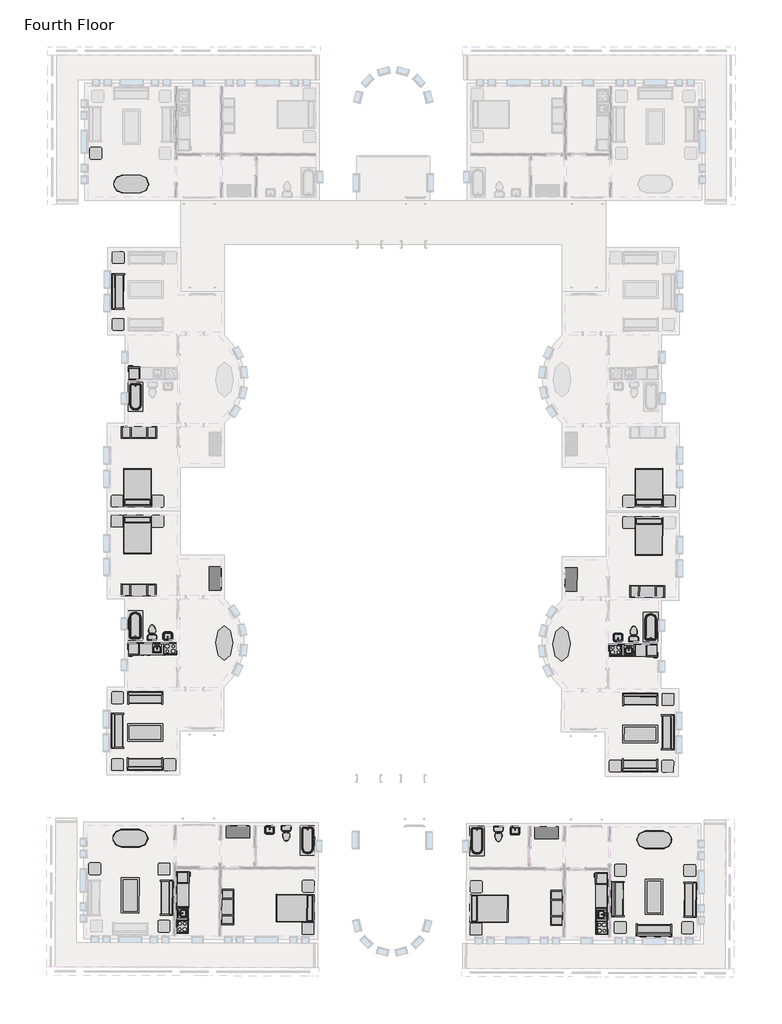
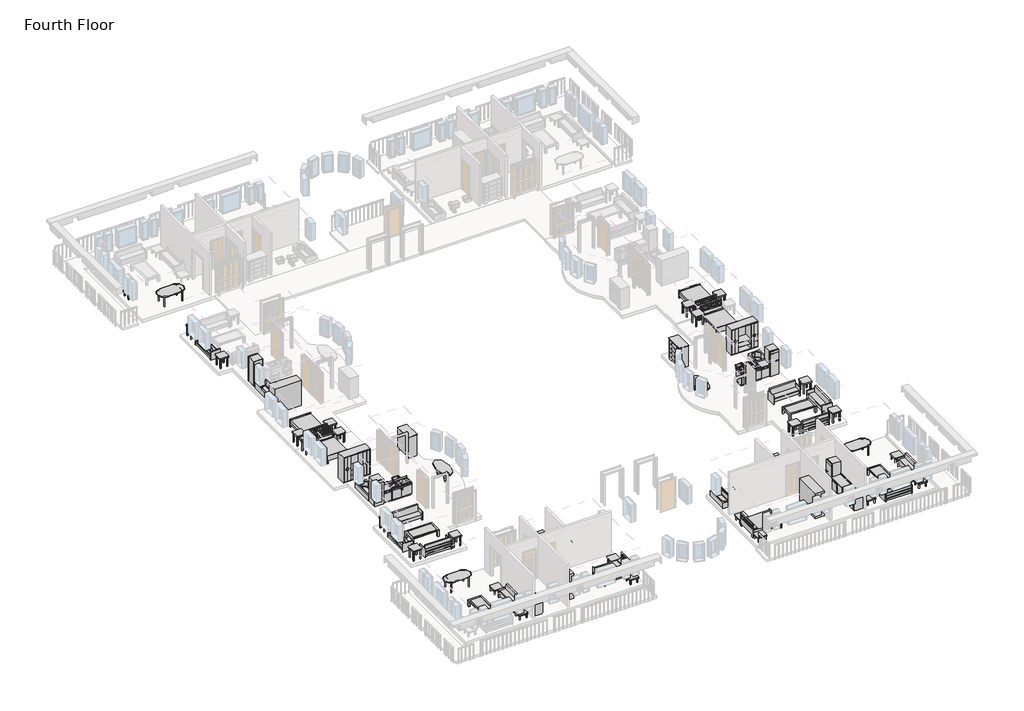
# One storey, part 7 of 8: 66 furniture elements, 17 flow terminals, 17 proxies.
"""IFC4 building model written with IfcOpenShell, lengths in millimetres."""

from ifc_helpers import new_model, si_unit, origin, place, context, project, spatial, transform, mapped, element, save
from components import m_cook_top_4_unit2_0615_x_500mm_249f3515, m_cook_top_4_unit2_0615_x_500mm_c91639ce, m_dishwasher_610_x_610_x_875mm_54ecfc4c, m_dishwasher_610_x_610_x_875mm_75336c20, m_kitchenette_medium_1372mm_e05c6bec, m_kitchenette_medium_1372mm_39f1532f, m_refrigerator_600_x_660mm_a466bf94, m_refrigerator_600_x_660mm_0a899b9c, m_sink_kitchen_island_450_x_450mm_f969cf2d, m_sink_kitchen_island_450_x_450mm_f6c2c534, m_sink_vanity_square_500_x_440mm_1e229b74, m_sink_vanity_square_500_x_440mm_f3cfe680, m_toilet_domestic_3d_m_toilet_domestic_3d_5cb52bd4, m_toilet_domestic_3d_m_toilet_domestic_3d_183bbd19, m_toilet_domestic_3d_m_toilet_domestic_3d_43425dfb, m_toilet_domestic_3d_m_toilet_domestic_3d_5530cc89, m_tub_rectangular_3d_m_tub_rectangular_3d_3a981ad5, m_tub_rectangular_3d_m_tub_rectangular_3d_c2020133, m_bed_shaker_1422_x_1981mm_double_096e7f55, m_bed_shaker_1422_x_1981mm_double_097b173b, m_counter_top_w_sink_hole_600mm_depth_1fb56bb9, m_counter_top_w_sink_hole_600mm_depth_08c4f679, m_counter_top_w_sink_hole_600mm_depth_60928b92, m_counter_top_w_sink_hole_600mm_depth_7e9aa94d, m_dresser_1220_x_1525_x_0610mm_18e1f140, m_dresser_1220_x_1525_x_0610mm_4e5de046, m_entertainment_center_1830_x_1830_x_0610mm_f77a9b93, m_entertainment_center_1830_x_1830_x_0610mm_4f6058a0, m_sofa_1830mm_58d08fc1, m_sofa_1830mm_3da2e71b, m_sofa1_1830mm_f9e8a66b, m_sofa1_1830mm_493d6964, m_table_coffee_0915_x_1830_x_0457mm_134cd960, m_table_coffee_0915_x_1830_x_0457mm_595c1ebd, m_table_dining_oval_0915_x_1830mm_a7cfbe21, m_table_dining_oval_0915_x_1830mm_ad8305c5, m_table_ellipse_1800_x_900mm_fd46d5a5, m_table_ellipse_1800_x_900mm_f7269293, m_table_end_cb6ea12e, m_table_end_aa2764bc, m_table_end_0610_x_0160mm_e0e5b28f, m_table_end_0610_x_0160mm_ccef8dc9

model = new_model("IFC4")

# Units and contexts
model_context = context("Model", 3, world=origin())
ifc_project = project(units=[si_unit("LENGTHUNIT", "METRE", prefix="MILLI")], contexts=[model_context])

# Site, building, storey
site = spatial("IfcSite", under=ifc_project)
building = spatial("IfcBuilding", under=site)
storey = spatial("IfcBuildingStorey", under=building, Name="Fourth Floor", Elevation=9144.0)

# Proxies
placement = place(None, origin())
m_cook_top_4_unit2_0615_x_500mm_shape = m_cook_top_4_unit2_0615_x_500mm_249f3515(model_context)
element("IfcBuildingElementProxy", 1, Name="M_Cook Top-4 Unit2 : 0615 x 500mm", ObjectType="M_Cook Top-4 Unit2 : 0615 x 500mm", at=placement, inside=storey, context=model_context, shape_type="MappedRepresentation", body=[
    mapped(m_cook_top_4_unit2_0615_x_500mm_shape, transform((-7404.4223325, -26881.3653639, 9144.0), x_axis=(0.9999905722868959, -0.004342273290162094, 0.0), y_axis=(0.004342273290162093, 0.9999905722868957, 0.0), z_axis=(0.0, 0.0, 0.9999999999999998))),
])
element("IfcBuildingElementProxy", 2, Name="M_Cook Top-4 Unit2 : 0615 x 500mm", ObjectType="M_Cook Top-4 Unit2 : 0615 x 500mm", at=placement, inside=storey, context=model_context, shape_type="MappedRepresentation", body=[
    mapped(m_cook_top_4_unit2_0615_x_500mm_shape, transform((-29921.672142, -41252.4695151, 9144.0), x_axis=(0.0028948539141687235, 0.9999958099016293, 0.0), y_axis=(-0.9999958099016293, 0.0028948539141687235, 0.0), z_axis=(0.0, 0.0, 1.0))),
])
m_cook_top_4_unit2_0615_x_500mm_2_shape = m_cook_top_4_unit2_0615_x_500mm_c91639ce(model_context)
element("IfcBuildingElementProxy", 3, Name="M_Cook Top-4 Unit2 : 0615 x 500mm", ObjectType="M_Cook Top-4 Unit2 : 0615 x 500mm", at=placement, inside=storey, context=model_context, shape_type="MappedRepresentation", body=[
    mapped(m_cook_top_4_unit2_0615_x_500mm_2_shape, transform((-8117.5635037, -41315.5894888, 9144.0), x_axis=(0.0028948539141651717, 0.9999958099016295, 0.0), y_axis=(-0.9999958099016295, 0.0028948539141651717, 0.0), z_axis=(0.0, 0.0, 1.0))),
])
element("IfcBuildingElementProxy", 4, Name="M_Cook Top-4 Unit2 : 0615 x 500mm", ObjectType="M_Cook Top-4 Unit2 : 0615 x 500mm", at=placement, inside=storey, context=model_context, shape_type="MappedRepresentation", body=[
    mapped(m_cook_top_4_unit2_0615_x_500mm_2_shape, transform((-30551.2317704, -26814.3584512, 9144.0), x_axis=(-0.9999989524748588, 0.0014474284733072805, 0.0), y_axis=(-0.0014474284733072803, -0.9999989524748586, 0.0), z_axis=(0.0, 0.0, 0.9999999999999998))),
])
m_dishwasher_610_x_610_x_875mm_shape = m_dishwasher_610_x_610_x_875mm_54ecfc4c(model_context)
element("IfcBuildingElementProxy", 5, Name="M_Dishwasher : 610 x 610 x 875mm", ObjectType="M_Dishwasher : 610 x 610 x 875mm", at=placement, inside=storey, context=model_context, shape_type="MappedRepresentation", body=[
    mapped(m_dishwasher_610_x_610_x_875mm_shape, transform((-6490.1062972, -27151.9876901, 9144.0), x_axis=(0.9999905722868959, -0.004342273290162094, 0.0), y_axis=(0.004342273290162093, 0.9999905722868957, 0.0), z_axis=(0.0, 0.0, 0.9999999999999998))),
])
element("IfcBuildingElementProxy", 6, Name="M_Dishwasher : 610 x 610 x 875mm", ObjectType="M_Dishwasher : 610 x 610 x 875mm", at=placement, inside=storey, context=model_context, shape_type="MappedRepresentation", body=[
    mapped(m_dishwasher_610_x_610_x_875mm_shape, transform((-29650.5063255, -39692.7654337, 9144.0), x_axis=(0.0028948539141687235, 0.9999958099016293, 0.0), y_axis=(-0.9999958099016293, 0.0028948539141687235, 0.0), z_axis=(0.0, 0.0, 1.0))),
])
m_dishwasher_610_x_610_x_875mm_2_shape = m_dishwasher_610_x_610_x_875mm_75336c20(model_context)
element("IfcBuildingElementProxy", 7, Name="M_Dishwasher : 610 x 610 x 875mm", ObjectType="M_Dishwasher : 610 x 610 x 875mm", at=placement, inside=storey, context=model_context, shape_type="MappedRepresentation", body=[
    mapped(m_dishwasher_610_x_610_x_875mm_2_shape, transform((-8379.6945822, -39754.3415843, 9144.0), x_axis=(0.0028948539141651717, 0.9999958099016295, 0.0), y_axis=(-0.9999958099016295, 0.0028948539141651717, 0.0), z_axis=(0.0, 0.0, 1.0))),
])
element("IfcBuildingElementProxy", 8, Name="M_Dishwasher : 610 x 610 x 875mm", ObjectType="M_Dishwasher : 610 x 610 x 875mm", at=placement, inside=storey, context=model_context, shape_type="MappedRepresentation", body=[
    mapped(m_dishwasher_610_x_610_x_875mm_2_shape, transform((-31467.0992991, -27079.6826412, 9144.0), x_axis=(-0.9999989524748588, 0.0014474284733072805, 0.0), y_axis=(-0.0014474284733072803, -0.9999989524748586, 0.0), z_axis=(0.0, 0.0, 0.9999999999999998))),
])
m_kitchenette_medium_1372mm_shape = m_kitchenette_medium_1372mm_e05c6bec(model_context)
element("IfcBuildingElementProxy", 9, Name="M_Kitchenette - Medium : 1372mm", ObjectType="M_Kitchenette - Medium : 1372mm", at=placement, inside=storey, context=model_context, shape_type="MappedRepresentation", body=[
    mapped(m_kitchenette_medium_1372mm_shape, transform((-30225.732172, -40927.3256482, 9144.0), x_axis=(0.0028948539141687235, 0.9999958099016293, 0.0), y_axis=(-0.9999958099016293, 0.0028948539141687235, 0.0), z_axis=(0.0, 0.0, 1.0))),
])
m_kitchenette_medium_1372mm_2_shape = m_kitchenette_medium_1372mm_39f1532f(model_context)
element("IfcBuildingElementProxy", 10, Name="M_Kitchenette - Medium : 1372mm", ObjectType="M_Kitchenette - Medium : 1372mm", at=placement, inside=storey, context=model_context, shape_type="MappedRepresentation", body=[
    mapped(m_kitchenette_medium_1372mm_2_shape, transform((-7811.6260897, -40992.2114828, 9144.0), x_axis=(0.0028948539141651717, 0.9999958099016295, 0.0), y_axis=(-0.9999958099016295, 0.0028948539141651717, 0.0), z_axis=(0.0, 0.0, 1.0))),
])
element("IfcBuildingElementProxy", 11, Name="M_Kitchenette - Medium1 : 1372mm 2", ObjectType="M_Kitchenette - Medium1 : 1372mm 2", at=placement, inside=storey, context=model_context, shape_type="MappedRepresentation", body=[
    mapped(m_kitchenette_medium_1372mm_shape, transform((-7078.8387011, -26577.7762748, 9144.0), x_axis=(0.9999905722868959, -0.004342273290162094, 0.0), y_axis=(0.004342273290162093, 0.9999905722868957, 0.0), z_axis=(0.0, 0.0, 0.9999999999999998))),
])
element("IfcBuildingElementProxy", 12, Name="M_Kitchenette - Medium1 : 1372mm 2", ObjectType="M_Kitchenette - Medium1 : 1372mm 2", at=placement, inside=storey, context=model_context, shape_type="MappedRepresentation", body=[
    mapped(m_kitchenette_medium_1372mm_2_shape, transform((-30875.0522602, -26508.8894242, 9144.0), x_axis=(-0.9999989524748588, 0.0014474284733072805, 0.0), y_axis=(-0.0014474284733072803, -0.9999989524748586, 0.0), z_axis=(0.0, 0.0, 0.9999999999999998))),
])
m_refrigerator_600_x_660mm_shape = m_refrigerator_600_x_660mm_a466bf94(model_context)
element("IfcBuildingElementProxy", 13, Name="M_Refrigerator : 600 x 660mm", ObjectType="M_Refrigerator : 600 x 660mm", at=placement, inside=storey, context=model_context, shape_type="MappedRepresentation", body=[
    mapped(m_refrigerator_600_x_660mm_shape, transform((-32487.3566416, -12528.1259936, 9144.0), x_axis=(-0.9999989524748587, 0.0014474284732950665, 0.0), y_axis=(-0.0014474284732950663, -0.9999989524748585, 0.0), z_axis=(0.0, 0.0, 0.9999999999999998))),
])
element("IfcBuildingElementProxy", 14, Name="M_Refrigerator : 600 x 660mm", ObjectType="M_Refrigerator : 600 x 660mm", at=placement, inside=storey, context=model_context, shape_type="MappedRepresentation", body=[
    mapped(m_refrigerator_600_x_660mm_shape, transform((-5447.6014915, -26881.0775022, 9144.0), x_axis=(0.9999905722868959, -0.004342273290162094, 0.0), y_axis=(0.004342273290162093, 0.9999905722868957, 0.0), z_axis=(0.0, 0.0, 0.9999999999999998))),
])
element("IfcBuildingElementProxy", 15, Name="M_Refrigerator : 600 x 660mm", ObjectType="M_Refrigerator : 600 x 660mm", at=placement, inside=storey, context=model_context, shape_type="MappedRepresentation", body=[
    mapped(m_refrigerator_600_x_660mm_shape, transform((-29922.9251807, -38650.6538432, 9144.0), x_axis=(0.0028948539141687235, 0.9999958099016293, 0.0), y_axis=(-0.9999958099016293, 0.0028948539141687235, 0.0), z_axis=(0.0, 0.0, 1.0))),
])
m_refrigerator_600_x_660mm_2_shape = m_refrigerator_600_x_660mm_0a899b9c(model_context)
element("IfcBuildingElementProxy", 16, Name="M_Refrigerator : 600 x 660mm", ObjectType="M_Refrigerator : 600 x 660mm", at=placement, inside=storey, context=model_context, shape_type="MappedRepresentation", body=[
    mapped(m_refrigerator_600_x_660mm_2_shape, transform((-8101.2467965, -38713.824679, 9144.0), x_axis=(0.0028948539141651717, 0.9999958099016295, 0.0), y_axis=(-0.9999958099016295, 0.0028948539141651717, 0.0), z_axis=(0.0, 0.0, 1.0))),
])
element("IfcBuildingElementProxy", 17, Name="M_Refrigerator : 600 x 660mm", ObjectType="M_Refrigerator : 600 x 660mm", at=placement, inside=storey, context=model_context, shape_type="MappedRepresentation", body=[
    mapped(m_refrigerator_600_x_660mm_2_shape, transform((-32508.0181478, -26802.7412209, 9144.0), x_axis=(-0.9999989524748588, 0.0014474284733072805, 0.0), y_axis=(-0.0014474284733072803, -0.9999989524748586, 0.0), z_axis=(0.0, 0.0, 0.9999999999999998))),
])

# Flow terminals
m_sink_kitchen_island_450_x_450mm_shape = m_sink_kitchen_island_450_x_450mm_f969cf2d(model_context)
element("IfcFlowTerminal", 18, ObjectType="M_Sink Kitchen-Island : 450 x 450mm", at=placement, inside=storey, context=model_context, shape_type="MappedRepresentation", body=[
    mapped(m_sink_kitchen_island_450_x_450mm_shape, transform((-6734.1280769, -26886.6214154, 9144.0), x_axis=(0.9999905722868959, -0.004342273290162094, 0.0), y_axis=(0.004342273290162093, 0.9999905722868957, 0.0), z_axis=(0.0, 0.0, 0.9999999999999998))),
])
element("IfcFlowTerminal", 19, ObjectType="M_Sink Kitchen-Island : 450 x 450mm", at=placement, inside=storey, context=model_context, shape_type="MappedRepresentation", body=[
    mapped(m_sink_kitchen_island_450_x_450mm_shape, transform((-29917.3862989, -40582.1683539, 9144.0), x_axis=(0.0028948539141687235, 0.9999958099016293, 0.0), y_axis=(-0.9999958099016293, 0.0028948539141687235, 0.0), z_axis=(0.0, 0.0, 1.0))),
])
m_sink_kitchen_island_450_x_450mm_2_shape = m_sink_kitchen_island_450_x_450mm_f6c2c534(model_context)
element("IfcFlowTerminal", 20, ObjectType="M_Sink Kitchen-Island : 450 x 450mm", at=placement, inside=storey, context=model_context, shape_type="MappedRepresentation", body=[
    mapped(m_sink_kitchen_island_450_x_450mm_2_shape, transform((-8117.9684433, -40645.2747484, 9144.0), x_axis=(0.0028948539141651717, 0.9999958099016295, 0.0), y_axis=(-0.9999958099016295, 0.0028948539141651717, 0.0), z_axis=(0.0, 0.0, 1.0))),
])
element("IfcFlowTerminal", 21, ObjectType="M_Sink Kitchen-Island : 450 x 450mm", at=placement, inside=storey, context=model_context, shape_type="MappedRepresentation", body=[
    mapped(m_sink_kitchen_island_450_x_450mm_2_shape, transform((-31221.5452225, -26815.733623, 9144.0), x_axis=(-0.9999989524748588, 0.0014474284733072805, 0.0), y_axis=(-0.0014474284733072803, -0.9999989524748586, 0.0), z_axis=(0.0, 0.0, 0.9999999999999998))),
])
m_sink_vanity_square_500_x_440mm_shape = m_sink_vanity_square_500_x_440mm_1e229b74(model_context)
element("IfcFlowTerminal", 22, ObjectType="M_Sink Vanity-Square : 500 x 440mm", at=placement, inside=storey, context=model_context, shape_type="MappedRepresentation", body=[
    mapped(m_sink_vanity_square_500_x_440mm_shape, transform((-7255.849628, -26269.4593372, 9144.0), x_axis=(-0.9999905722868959, 0.00434227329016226, 0.0), y_axis=(-0.0043422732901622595, -0.9999905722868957, 0.0), z_axis=(0.0, 0.0, 0.9999999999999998))),
])
element("IfcFlowTerminal", 23, ObjectType="M_Sink Vanity-Square : 500 x 440mm", at=placement, inside=storey, context=model_context, shape_type="MappedRepresentation", body=[
    mapped(m_sink_vanity_square_500_x_440mm_shape, transform((-25398.4470959, -36193.3769715, 9144.0), x_axis=(0.9999958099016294, -0.0028948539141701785, 0.0), y_axis=(0.0028948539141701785, 0.9999958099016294, 0.0), z_axis=(0.0, 0.0, 1.0))),
])
m_sink_vanity_square_500_x_440mm_2_shape = m_sink_vanity_square_500_x_440mm_f3cfe680(model_context)
element("IfcFlowTerminal", 24, ObjectType="M_Sink Vanity-Square : 500 x 440mm", at=placement, inside=storey, context=model_context, shape_type="MappedRepresentation", body=[
    mapped(m_sink_vanity_square_500_x_440mm_2_shape, transform((-12611.4221939, -36230.3936957, 9144.0), x_axis=(-0.9999958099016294, 0.002894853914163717, 0.0), y_axis=(-0.002894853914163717, -0.9999958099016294, 0.0), z_axis=(0.0, 0.0, 1.0))),
])
element("IfcFlowTerminal", 25, ObjectType="M_Sink Vanity-Square : 500 x 440mm", at=placement, inside=storey, context=model_context, shape_type="MappedRepresentation", body=[
    mapped(m_sink_vanity_square_500_x_440mm_2_shape, transform((-30696.2592425, -26201.6024913, 9144.0), x_axis=(0.9999989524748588, -0.001447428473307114, 0.0), y_axis=(0.0014474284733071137, 0.9999989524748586, 0.0), z_axis=(0.0, 0.0, 0.9999999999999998))),
])
m_toilet_domestic_3d_m_toilet_domestic_3d_shape = m_toilet_domestic_3d_m_toilet_domestic_3d_5cb52bd4(model_context)
m_toilet_domestic_3d_m_toilet_domestic_3d_2_shape = m_toilet_domestic_3d_m_toilet_domestic_3d_183bbd19(model_context)
element("IfcFlowTerminal", 26, ObjectType="M_Toilet-Domestic-3D : M_Toilet-Domestic-3D", at=placement, inside=storey, context=model_context, shape_type="MappedRepresentation", body=[
    mapped(m_toilet_domestic_3d_m_toilet_domestic_3d_shape, transform((-24522.1713775, -36508.8406097, 9144.0), x_axis=(0.9999958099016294, -0.00289485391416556, 0.0), y_axis=(0.00289485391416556, 0.9999958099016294, 0.0), z_axis=(0.0, 0.0, 1.0))),
    mapped(m_toilet_domestic_3d_m_toilet_domestic_3d_2_shape, transform((-24522.1713775, -36508.8406097, 9144.0), x_axis=(0.9999958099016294, -0.00289485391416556, 0.0), y_axis=(0.00289485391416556, 0.9999958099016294, 0.0), z_axis=(0.0, 0.0, 1.0))),
])
m_toilet_domestic_3d_m_toilet_domestic_3d_3_shape = m_toilet_domestic_3d_m_toilet_domestic_3d_43425dfb(model_context)
m_toilet_domestic_3d_m_toilet_domestic_3d_4_shape = m_toilet_domestic_3d_m_toilet_domestic_3d_5530cc89(model_context)
element("IfcFlowTerminal", 27, ObjectType="M_Toilet-Domestic-3D : M_Toilet-Domestic-3D", at=placement, inside=storey, context=model_context, shape_type="MappedRepresentation", body=[
    mapped(m_toilet_domestic_3d_m_toilet_domestic_3d_3_shape, transform((-13489.5096603, -36540.7786875, 9144.0), x_axis=(-0.9999958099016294, 0.002894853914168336, 0.0), y_axis=(-0.002894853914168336, -0.9999958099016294, 0.0), z_axis=(0.0, 0.0, 1.0))),
    mapped(m_toilet_domestic_3d_m_toilet_domestic_3d_4_shape, transform((-13489.5096603, -36540.7786875, 9144.0), x_axis=(-0.9999958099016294, 0.002894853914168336, 0.0), y_axis=(-0.002894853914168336, -0.9999958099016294, 0.0), z_axis=(0.0, 0.0, 1.0))),
])
element("IfcFlowTerminal", 28, ObjectType="M_Toilet-Domestic-3D1 : M_Toilet-Domestic-3D", at=placement, inside=storey, context=model_context, shape_type="MappedRepresentation", body=[
    mapped(m_toilet_domestic_3d_m_toilet_domestic_3d_shape, transform((-6457.2243201, -25950.2735511, 9144.0), x_axis=(-0.9999905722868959, 0.00434227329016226, 0.0), y_axis=(-0.0043422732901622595, -0.9999905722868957, 0.0), z_axis=(0.0, 0.0, 0.9999999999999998))),
    mapped(m_toilet_domestic_3d_m_toilet_domestic_3d_2_shape, transform((-6457.2243201, -25950.2735511, 9144.0), x_axis=(-0.9999905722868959, 0.00434227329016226, 0.0), y_axis=(-0.0043422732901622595, -0.9999905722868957, 0.0), z_axis=(0.0, 0.0, 0.9999999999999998))),
])
element("IfcFlowTerminal", 29, ObjectType="M_Toilet-Domestic-3D1 : M_Toilet-Domestic-3D", at=placement, inside=storey, context=model_context, shape_type="MappedRepresentation", body=[
    mapped(m_toilet_domestic_3d_m_toilet_domestic_3d_3_shape, transform((-31493.0231805, -25877.7982671, 9144.0), x_axis=(0.9999989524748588, -0.001447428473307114, 0.0), y_axis=(0.0014474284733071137, 0.9999989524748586, 0.0), z_axis=(0.0, 0.0, 0.9999999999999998))),
    mapped(m_toilet_domestic_3d_m_toilet_domestic_3d_4_shape, transform((-31493.0231805, -25877.7982671, 9144.0), x_axis=(0.9999989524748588, -0.001447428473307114, 0.0), y_axis=(0.0014474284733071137, 0.9999989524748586, 0.0), z_axis=(0.0, 0.0, 0.9999999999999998))),
])
m_tub_rectangular_3d_m_tub_rectangular_3d_shape = m_tub_rectangular_3d_m_tub_rectangular_3d_3a981ad5(model_context)
element("IfcFlowTerminal", 30, ObjectType="M_Tub-Rectangular-3D : M_Tub-Rectangular-3D", at=placement, inside=storey, context=model_context, shape_type="MappedRepresentation", body=[
    mapped(m_tub_rectangular_3d_m_tub_rectangular_3d_shape, transform((-22854.3573612, -37129.57823, 9144.0), x_axis=(-0.0028948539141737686, -0.9999958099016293, 0.0), y_axis=(0.9999958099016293, -0.0028948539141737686, 0.0), z_axis=(0.0, 0.0, 1.0))),
])
element("IfcFlowTerminal", 31, ObjectType="M_Tub-Rectangular-3D : M_Tub-Rectangular-3D", at=placement, inside=storey, context=model_context, shape_type="MappedRepresentation", body=[
    mapped(m_tub_rectangular_3d_m_tub_rectangular_3d_shape, transform((-32926.5841692, -25259.8157014, 9144.0), x_axis=(0.0014474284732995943, 0.9999989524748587, 0.0), y_axis=(-0.9999989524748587, 0.0014474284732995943, 0.0), z_axis=(0.0, 0.0, 1.0))),
])
m_tub_rectangular_3d_m_tub_rectangular_3d_2_shape = m_tub_rectangular_3d_m_tub_rectangular_3d_c2020133(model_context)
element("IfcFlowTerminal", 32, ObjectType="M_Tub-Rectangular-3D : M_Tub-Rectangular-3D", at=placement, inside=storey, context=model_context, shape_type="MappedRepresentation", body=[
    mapped(m_tub_rectangular_3d_m_tub_rectangular_3d_2_shape, transform((-32910.3874532, -14069.8333606, 9144.0), x_axis=(-0.0014474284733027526, -0.9999989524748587, 0.0), y_axis=(0.9999989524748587, -0.0014474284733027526, 0.0), z_axis=(0.0, 0.0, 1.0))),
])
element("IfcFlowTerminal", 33, ObjectType="M_Tub-Rectangular-3D : M_Tub-Rectangular-3D", at=placement, inside=storey, context=model_context, shape_type="MappedRepresentation", body=[
    mapped(m_tub_rectangular_3d_m_tub_rectangular_3d_2_shape, transform((-15160.8895978, -37151.8497886, 9144.0), x_axis=(-0.0028948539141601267, -0.9999958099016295, 0.0), y_axis=(0.9999958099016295, -0.0028948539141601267, 0.0), z_axis=(0.0, 0.0, 1.0))),
])
element("IfcFlowTerminal", 34, ObjectType="M_Tub-Rectangular-3D : M_Tub-Rectangular-3D", at=placement, inside=storey, context=model_context, shape_type="MappedRepresentation", body=[
    mapped(m_tub_rectangular_3d_m_tub_rectangular_3d_2_shape, transform((-5020.1094348, -25340.6012075, 9144.0), x_axis=(0.004342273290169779, 0.9999905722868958, 0.0), y_axis=(-0.9999905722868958, 0.004342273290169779, 0.0), z_axis=(0.0, 0.0, 1.0))),
])

# Furniture
m_bed_shaker_1422_x_1981mm_double_shape = m_bed_shaker_1422_x_1981mm_double_096e7f55(model_context)
element("IfcFurniture", 35, ObjectType="M_Bed-Shaker : 1422 x 1981mm - Double", at=placement, inside=storey, context=model_context, shape_type="MappedRepresentation", body=[
    mapped(m_bed_shaker_1422_x_1981mm_double_shape, transform((-32265.3963493, -19430.7695861, 9144.0), x_axis=(-0.9999989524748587, 0.0014474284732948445, 0.0), y_axis=(-0.0014474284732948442, -0.9999989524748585, 0.0), z_axis=(0.0, 0.0, 0.9999999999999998))),
])
element("IfcFurniture", 36, ObjectType="M_Bed-Shaker : 1422 x 1981mm - Double", at=placement, inside=storey, context=model_context, shape_type="MappedRepresentation", body=[
    mapped(m_bed_shaker_1422_x_1981mm_double_shape, transform((-5649.5787089, -19977.8202898, 9144.0), x_axis=(0.9999905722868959, -0.004342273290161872, 0.0), y_axis=(0.004342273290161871, 0.9999905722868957, 0.0), z_axis=(0.0, 0.0, 0.9999999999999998))),
])
element("IfcFurniture", 37, ObjectType="M_Bed-Shaker : 1422 x 1981mm - Double", at=placement, inside=storey, context=model_context, shape_type="MappedRepresentation", body=[
    mapped(m_bed_shaker_1422_x_1981mm_double_shape, transform((-23068.6004859, -40322.2184362, 9144.0), x_axis=(-0.002894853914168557, -0.9999958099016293, 0.0), y_axis=(0.9999958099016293, -0.002894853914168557, 0.0), z_axis=(0.0, 0.0, 1.0))),
])
m_bed_shaker_1422_x_1981mm_double_2_shape = m_bed_shaker_1422_x_1981mm_double_097b173b(model_context)
element("IfcFurniture", 38, ObjectType="M_Bed-Shaker : 1422 x 1981mm - Double", at=placement, inside=storey, context=model_context, shape_type="MappedRepresentation", body=[
    mapped(m_bed_shaker_1422_x_1981mm_double_2_shape, transform((-5648.7868913, -19430.7695861, 9144.0), x_axis=(0.9999989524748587, 0.0014474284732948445, 0.0), y_axis=(-0.0014474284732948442, 0.9999989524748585, 0.0), z_axis=(0.0, 0.0, 0.9999999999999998))),
])
element("IfcFurniture", 39, ObjectType="M_Bed-Shaker : 1422 x 1981mm - Double", at=placement, inside=storey, context=model_context, shape_type="MappedRepresentation", body=[
    mapped(m_bed_shaker_1422_x_1981mm_double_2_shape, transform((-14965.1344404, -40345.6768849, 9144.0), x_axis=(-0.0028948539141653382, -0.9999958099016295, 0.0), y_axis=(0.9999958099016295, -0.0028948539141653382, 0.0), z_axis=(0.0, 0.0, 1.0))),
])
element("IfcFurniture", 40, ObjectType="M_Bed-Shaker : 1422 x 1981mm - Double", at=placement, inside=storey, context=model_context, shape_type="MappedRepresentation", body=[
    mapped(m_bed_shaker_1422_x_1981mm_double_2_shape, transform((-32266.0766407, -19900.7690938, 9144.0), x_axis=(-0.9999989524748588, 0.0014474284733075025, 0.0), y_axis=(-0.0014474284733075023, -0.9999989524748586, 0.0), z_axis=(0.0, 0.0, 0.9999999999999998))),
])
m_counter_top_w_sink_hole_600mm_depth_shape = m_counter_top_w_sink_hole_600mm_depth_1fb56bb9(model_context)
element("IfcFurniture", 41, ObjectType="M_Counter Top w Sink Hole : 600mm Depth", at=placement, inside=storey, context=model_context, shape_type="MappedRepresentation", body=[
    mapped(m_counter_top_w_sink_hole_600mm_depth_shape, transform((-30224.1886359, -40394.1278824, 9144.0), x_axis=(0.0028948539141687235, 0.9999958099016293, 0.0), y_axis=(-0.9999958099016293, 0.0028948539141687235, 0.0), z_axis=(0.0, 0.0, 1.0))),
])
m_counter_top_w_sink_hole_600mm_depth_2_shape = m_counter_top_w_sink_hole_600mm_depth_08c4f679(model_context)
element("IfcFurniture", 42, ObjectType="M_Counter Top w Sink Hole : 600mm Depth", at=placement, inside=storey, context=model_context, shape_type="MappedRepresentation", body=[
    mapped(m_counter_top_w_sink_hole_600mm_depth_2_shape, transform((-6545.643728, -26580.0915749, 9144.0), x_axis=(0.9999905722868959, -0.004342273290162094, 0.0), y_axis=(0.004342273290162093, 0.9999905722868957, 0.0), z_axis=(0.0, 0.0, 0.9999999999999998))),
])
m_counter_top_w_sink_hole_600mm_depth_3_shape = m_counter_top_w_sink_hole_600mm_depth_60928b92(model_context)
element("IfcFurniture", 43, ObjectType="M_Counter Top w Sink Hole : 600mm Depth", at=placement, inside=storey, context=model_context, shape_type="MappedRepresentation", body=[
    mapped(m_counter_top_w_sink_hole_600mm_depth_3_shape, transform((-31408.2517016, -26508.1176554, 9144.0), x_axis=(-0.9999989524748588, 0.0014474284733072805, 0.0), y_axis=(-0.0014474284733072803, -0.9999989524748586, 0.0), z_axis=(0.0, 0.0, 0.9999999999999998))),
])
m_counter_top_w_sink_hole_600mm_depth_4_shape = m_counter_top_w_sink_hole_600mm_depth_7e9aa94d(model_context)
element("IfcFurniture", 44, ObjectType="M_Counter Top w Sink Hole : 600mm Depth", at=placement, inside=storey, context=model_context, shape_type="MappedRepresentation", body=[
    mapped(m_counter_top_w_sink_hole_600mm_depth_4_shape, transform((-7810.0825536, -40459.013717, 9144.0), x_axis=(0.0028948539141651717, 0.9999958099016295, 0.0), y_axis=(-0.9999958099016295, 0.0028948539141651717, 0.0), z_axis=(0.0, 0.0, 1.0))),
])
m_dresser_1220_x_1525_x_0610mm_shape = m_dresser_1220_x_1525_x_0610mm_18e1f140(model_context)
element("IfcFurniture", 45, ObjectType="M_Dresser : 1220 x 1525 x 0610mm", at=placement, inside=storey, context=model_context, shape_type="MappedRepresentation", body=[
    mapped(m_dresser_1220_x_1525_x_0610mm_shape, transform((-9350.5209907, -23482.9760924, 9144.0), x_axis=(-0.004342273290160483, -0.9999905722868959, 0.0), y_axis=(0.9999905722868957, -0.004342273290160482, 0.0), z_axis=(0.0, 0.0, 0.9999999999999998))),
])
element("IfcFurniture", 46, ObjectType="M_Dresser : 1220 x 1525 x 0610mm", at=placement, inside=storey, context=model_context, shape_type="MappedRepresentation", body=[
    mapped(m_dresser_1220_x_1525_x_0610mm_shape, transform((-27295.820683, -36698.2790207, 9144.0), x_axis=(-0.9999958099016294, 0.0028948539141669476, 0.0), y_axis=(-0.0028948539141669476, -0.9999958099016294, 0.0), z_axis=(0.0, 0.0, 1.0))),
])
m_dresser_1220_x_1525_x_0610mm_2_shape = m_dresser_1220_x_1525_x_0610mm_4e5de046(model_context)
element("IfcFurniture", 47, ObjectType="M_Dresser : 1220 x 1525 x 0610mm", at=placement, inside=storey, context=model_context, shape_type="MappedRepresentation", body=[
    mapped(m_dresser_1220_x_1525_x_0610mm_2_shape, transform((-10717.0036305, -36746.2724752, 9144.0), x_axis=(0.9999958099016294, -0.002894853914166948, 0.0), y_axis=(0.002894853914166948, 0.9999958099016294, 0.0), z_axis=(0.0, 0.0, 1.0))),
])
element("IfcFurniture", 48, ObjectType="M_Dresser : 1220 x 1525 x 0610mm", at=placement, inside=storey, context=model_context, shape_type="MappedRepresentation", body=[
    mapped(m_dresser_1220_x_1525_x_0610mm_2_shape, transform((-28585.490131, -23427.2934334, 9144.0), x_axis=(-0.0014474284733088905, -0.9999989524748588, 0.0), y_axis=(0.9999989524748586, -0.0014474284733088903, 0.0), z_axis=(0.0, 0.0, 0.9999999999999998))),
])
m_entertainment_center_1830_x_1830_x_0610mm_shape = m_entertainment_center_1830_x_1830_x_0610mm_f77a9b93(model_context)
element("IfcFurniture", 49, ObjectType="M_Entertainment center : 1830 x 1830 x 0610mm", at=placement, inside=storey, context=model_context, shape_type="MappedRepresentation", body=[
    mapped(m_entertainment_center_1830_x_1830_x_0610mm_shape, transform((-32173.151944, -15980.2994888, 9144.0), x_axis=(-0.9999989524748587, 0.0014474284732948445, 0.0), y_axis=(-0.0014474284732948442, -0.9999989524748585, 0.0), z_axis=(0.0, 0.0, 0.9999999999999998))),
])
element("IfcFurniture", 50, ObjectType="M_Entertainment center : 1830 x 1830 x 0610mm", at=placement, inside=storey, context=model_context, shape_type="MappedRepresentation", body=[
    mapped(m_entertainment_center_1830_x_1830_x_0610mm_shape, transform((-5751.8113346, -23428.0088952, 9144.0), x_axis=(0.9999905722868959, -0.004342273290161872, 0.0), y_axis=(0.004342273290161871, 0.9999905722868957, 0.0), z_axis=(0.0, 0.0, 0.9999999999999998))),
])
element("IfcFurniture", 51, ObjectType="M_Entertainment center : 1830 x 1830 x 0610mm", at=placement, inside=storey, context=model_context, shape_type="MappedRepresentation", body=[
    mapped(m_entertainment_center_1830_x_1830_x_0610mm_shape, transform((-27155.4724705, -40237.537184, 9144.0), x_axis=(-0.0028948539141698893, -0.9999958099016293, 0.0), y_axis=(0.9999958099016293, -0.0028948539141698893, 0.0), z_axis=(0.0, 0.0, 1.0))),
])
m_entertainment_center_1830_x_1830_x_0610mm_2_shape = m_entertainment_center_1830_x_1830_x_0610mm_4f6058a0(model_context)
element("IfcFurniture", 52, ObjectType="M_Entertainment center : 1830 x 1830 x 0610mm", at=placement, inside=storey, context=model_context, shape_type="MappedRepresentation", body=[
    mapped(m_entertainment_center_1830_x_1830_x_0610mm_2_shape, transform((-10877.8406756, -40284.6587476, 9144.0), x_axis=(-0.002894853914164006, -0.9999958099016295, 0.0), y_axis=(0.9999958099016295, -0.002894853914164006, 0.0), z_axis=(0.0, 0.0, 1.0))),
])
element("IfcFurniture", 53, ObjectType="M_Entertainment center : 1830 x 1830 x 0610mm", at=placement, inside=storey, context=model_context, shape_type="MappedRepresentation", body=[
    mapped(m_entertainment_center_1830_x_1830_x_0610mm_2_shape, transform((-32183.8212288, -23351.4917673, 9144.0), x_axis=(-0.9999989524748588, 0.0014474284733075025, 0.0), y_axis=(-0.0014474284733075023, -0.9999989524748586, 0.0), z_axis=(0.0, 0.0, 0.9999999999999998))),
])
m_sofa_1830mm_shape = m_sofa_1830mm_58d08fc1(model_context)
element("IfcFurniture", 54, ObjectType="M_Sofa : 1830mm", at=placement, inside=storey, context=model_context, shape_type="MappedRepresentation", body=[
    mapped(m_sofa_1830mm_shape, transform((-30883.7111212, -39691.3716975, 9144.0), x_axis=(-0.002894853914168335, -0.9999958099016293, 0.0), y_axis=(0.9999958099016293, -0.002894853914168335, 0.0), z_axis=(0.0, 0.0, 1.0))),
])
m_sofa_1830mm_2_shape = m_sofa_1830mm_3da2e71b(model_context)
element("IfcFurniture", 55, ObjectType="M_Sofa : 1830mm", at=placement, inside=storey, context=model_context, shape_type="MappedRepresentation", body=[
    mapped(m_sofa_1830mm_2_shape, transform((-5476.2542745, -41309.1457454, 9144.0), x_axis=(0.9999958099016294, -0.002894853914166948, 0.0), y_axis=(0.002894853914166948, 0.9999958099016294, 0.0), z_axis=(0.0, 0.0, 1.0))),
])
element("IfcFurniture", 56, ObjectType="M_Sofa : 1830mm", at=placement, inside=storey, context=model_context, shape_type="MappedRepresentation", body=[
    mapped(m_sofa_1830mm_2_shape, transform((-3675.7206344, -39931.6563496, 9144.0), x_axis=(0.002894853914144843, 0.9999958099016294, 0.0), y_axis=(-0.9999958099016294, 0.002894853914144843, 0.0), z_axis=(0.0, 0.0, 1.0))),
])
element("IfcFurniture", 57, ObjectType="M_Sofa : 1830mm", at=placement, inside=storey, context=model_context, shape_type="MappedRepresentation", body=[
    mapped(m_sofa_1830mm_2_shape, transform((-7146.5023862, -39760.087737, 9144.0), x_axis=(-0.0028948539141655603, -0.9999958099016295, 0.0), y_axis=(0.9999958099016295, -0.0028948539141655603, 0.0), z_axis=(0.0, 0.0, 1.0))),
])
m_sofa1_1830mm_shape = m_sofa1_1830mm_f9e8a66b(model_context)
element("IfcFurniture", 58, ObjectType="M_Sofa1 : 1830mm", at=placement, inside=storey, context=model_context, shape_type="MappedRepresentation", body=[
    mapped(m_sofa1_1830mm_shape, transform((-33110.3167447, -8323.9054813, 9144.0), x_axis=(0.0014474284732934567, 0.9999989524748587, 0.0), y_axis=(-0.9999989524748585, 0.0014474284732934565, 0.0), z_axis=(0.0, 0.0, 0.9999999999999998))),
])
element("IfcFurniture", 59, ObjectType="M_Sofa1 : 1830mm", at=placement, inside=storey, context=model_context, shape_type="MappedRepresentation", body=[
    mapped(m_sofa1_1830mm_shape, transform((-4836.8146029, -31087.0837768, 9144.0), x_axis=(-0.004342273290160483, -0.9999905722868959, 0.0), y_axis=(0.9999905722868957, -0.004342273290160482, 0.0), z_axis=(0.0, 0.0, 0.9999999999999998))),
])
element("IfcFurniture", 60, ObjectType="M_Sofa1 : 1830mm", at=placement, inside=storey, context=model_context, shape_type="MappedRepresentation", body=[
    mapped(m_sofa1_1830mm_shape, transform((-6189.5797831, -29598.4702567, 9144.0), x_axis=(0.9999905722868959, -0.004342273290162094, 0.0), y_axis=(0.004342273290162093, 0.9999905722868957, 0.0), z_axis=(0.0, 0.0, 0.9999999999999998))),
])
element("IfcFurniture", 61, ObjectType="M_Sofa1 : 1830mm", at=placement, inside=storey, context=model_context, shape_type="MappedRepresentation", body=[
    mapped(m_sofa1_1830mm_shape, transform((-6062.461585, -32735.9936216, 9144.0), x_axis=(-0.9999905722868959, 0.00434227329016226, 0.0), y_axis=(-0.0043422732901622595, -0.9999905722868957, 0.0), z_axis=(0.0, 0.0, 0.9999999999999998))),
])
m_sofa1_1830mm_2_shape = m_sofa1_1830mm_493d6964(model_context)
element("IfcFurniture", 62, ObjectType="M_Sofa1 : 1830mm", at=placement, inside=storey, context=model_context, shape_type="MappedRepresentation", body=[
    mapped(m_sofa1_1830mm_2_shape, transform((-33143.1462448, -31005.1407385, 9144.0), x_axis=(-0.0014474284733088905, -0.9999989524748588, 0.0), y_axis=(0.9999989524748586, -0.0014474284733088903, 0.0), z_axis=(0.0, 0.0, 0.9999999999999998))),
])
element("IfcFurniture", 63, ObjectType="M_Sofa1 : 1830mm", at=placement, inside=storey, context=model_context, shape_type="MappedRepresentation", body=[
    mapped(m_sofa1_1830mm_2_shape, transform((-31781.7851362, -29524.3842504, 9144.0), x_axis=(-0.9999989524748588, 0.0014474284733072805, 0.0), y_axis=(-0.0014474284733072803, -0.9999989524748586, 0.0), z_axis=(0.0, 0.0, 0.9999999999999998))),
])
element("IfcFurniture", 64, ObjectType="M_Sofa1 : 1830mm", at=placement, inside=storey, context=model_context, shape_type="MappedRepresentation", body=[
    mapped(m_sofa1_1830mm_2_shape, transform((-31927.0664712, -32661.1190552, 9144.0), x_axis=(0.9999989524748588, -0.001447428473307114, 0.0), y_axis=(0.0014474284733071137, 0.9999989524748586, 0.0), z_axis=(0.0, 0.0, 0.9999999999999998))),
])
m_table_coffee_0915_x_1830_x_0457mm_shape = m_table_coffee_0915_x_1830_x_0457mm_134cd960(model_context)
element("IfcFurniture", 65, ObjectType="M_Table-Coffee : 0915 x 1830 x 0457mm", at=placement, inside=storey, context=model_context, shape_type="MappedRepresentation", body=[
    mapped(m_table_coffee_0915_x_1830_x_0457mm_shape, transform((-6145.0704326, -31347.7369995, 9144.0), x_axis=(0.9999905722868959, -0.004342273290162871, 0.0), y_axis=(0.00434227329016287, 0.9999905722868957, 0.0), z_axis=(0.0, 0.0, 0.9999999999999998))),
])
element("IfcFurniture", 66, ObjectType="M_Table-Coffee : 0915 x 1830 x 0457mm", at=placement, inside=storey, context=model_context, shape_type="MappedRepresentation", body=[
    mapped(m_table_coffee_0915_x_1830_x_0457mm_shape, transform((-32723.8138427, -39618.1492872, 9144.0), x_axis=(-0.0028948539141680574, -0.9999958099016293, 0.0), y_axis=(0.9999958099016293, -0.0028948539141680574, 0.0), z_axis=(0.0, 0.0, 1.0))),
])
m_table_coffee_0915_x_1830_x_0457mm_2_shape = m_table_coffee_0915_x_1830_x_0457mm_595c1ebd(model_context)
element("IfcFurniture", 67, ObjectType="M_Table-Coffee : 0915 x 1830 x 0457mm", at=placement, inside=storey, context=model_context, shape_type="MappedRepresentation", body=[
    mapped(m_table_coffee_0915_x_1830_x_0457mm_2_shape, transform((-5306.0065709, -39697.5201665, 9144.0), x_axis=(-0.002894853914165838, -0.9999958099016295, 0.0), y_axis=(0.9999958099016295, -0.002894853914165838, 0.0), z_axis=(0.0, 0.0, 1.0))),
])
element("IfcFurniture", 68, ObjectType="M_Table-Coffee : 0915 x 1830 x 0457mm", at=placement, inside=storey, context=model_context, shape_type="MappedRepresentation", body=[
    mapped(m_table_coffee_0915_x_1830_x_0457mm_2_shape, transform((-31836.4214416, -31273.3639798, 9144.0), x_axis=(-0.9999989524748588, 0.0014474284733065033, 0.0), y_axis=(-0.001447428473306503, -0.9999989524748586, 0.0), z_axis=(0.0, 0.0, 0.9999999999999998))),
])
m_table_dining_oval_0915_x_1830mm_shape = m_table_dining_oval_0915_x_1830mm_a7cfbe21(model_context)
element("IfcFurniture", 69, ObjectType="M_Table-Dining Oval : 0915 x 1830mm", at=placement, inside=storey, context=model_context, shape_type="MappedRepresentation", body=[
    mapped(m_table_dining_oval_0915_x_1830mm_shape, transform((-33022.9144028, -37024.136693, 9144.0), x_axis=(-0.9999958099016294, 0.0028948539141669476, 0.0), y_axis=(-0.0028948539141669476, -0.9999958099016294, 0.0), z_axis=(0.0, 0.0, 1.0))),
])
m_table_dining_oval_0915_x_1830mm_2_shape = m_table_dining_oval_0915_x_1830mm_ad8305c5(model_context)
element("IfcFurniture", 70, ObjectType="M_Table-Dining Oval : 0915 x 1830mm", at=placement, inside=storey, context=model_context, shape_type="MappedRepresentation", body=[
    mapped(m_table_dining_oval_0915_x_1830mm_2_shape, transform((-32972.6612925, -2305.2828007, 9144.0), x_axis=(-1.0, 0.0, 0.0), y_axis=(0.0, -1.0, 0.0), z_axis=(0.0, 0.0, 1.0))),
])
element("IfcFurniture", 71, ObjectType="M_Table-Dining Oval : 0915 x 1830mm", at=placement, inside=storey, context=model_context, shape_type="MappedRepresentation", body=[
    mapped(m_table_dining_oval_0915_x_1830mm_2_shape, transform((-4991.8925118, -37105.2827464, 9144.0), x_axis=(0.9999958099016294, -0.002894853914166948, 0.0), y_axis=(0.002894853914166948, 0.9999958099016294, 0.0), z_axis=(0.0, 0.0, 1.0))),
])
m_table_ellipse_1800_x_900mm_shape = m_table_ellipse_1800_x_900mm_fd46d5a5(model_context)
element("IfcFurniture", 72, ObjectType="M_Table-Ellipse : 1800 x 900mm", at=placement, inside=storey, context=model_context, shape_type="MappedRepresentation", body=[
    mapped(m_table_ellipse_1800_x_900mm_shape, transform((-10207.0715038, -26564.192505, 9144.0), x_axis=(-0.004342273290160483, -0.9999905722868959, 0.0), y_axis=(0.9999905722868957, -0.004342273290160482, 0.0), z_axis=(0.0, 0.0, 0.9999999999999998))),
])
m_table_ellipse_1800_x_900mm_2_shape = m_table_ellipse_1800_x_900mm_f7269293(model_context)
element("IfcFurniture", 73, ObjectType="M_Table-Ellipse : 1800 x 900mm", at=placement, inside=storey, context=model_context, shape_type="MappedRepresentation", body=[
    mapped(m_table_ellipse_1800_x_900mm_2_shape, transform((-27746.793242, -26513.4173601, 9144.0), x_axis=(-0.0014474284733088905, -0.9999989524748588, 0.0), y_axis=(0.9999989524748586, -0.0014474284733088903, 0.0), z_axis=(0.0, 0.0, 0.9999999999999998))),
])
m_table_end_shape = m_table_end_cb6ea12e(model_context)
element("IfcFurniture", 74, ObjectType="M_Table-End : 0610 x 0160mm altered height", at=placement, inside=storey, context=model_context, shape_type="MappedRepresentation", body=[
    mapped(m_table_end_shape, transform((-30569.1071738, -41085.2587623, 9144.0), x_axis=(-0.9999958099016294, 0.0028948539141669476, 0.0), y_axis=(-0.0028948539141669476, -0.9999958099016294, 0.0), z_axis=(0.0, 0.0, 1.0))),
])
element("IfcFurniture", 75, ObjectType="M_Table-End : 0610 x 0160mm altered height", at=placement, inside=storey, context=model_context, shape_type="MappedRepresentation", body=[
    mapped(m_table_end_shape, transform((-34160.490031, -38103.349739, 9144.0), x_axis=(-0.9999958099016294, 0.0028948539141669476, 0.0), y_axis=(-0.0028948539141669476, -0.9999958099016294, 0.0), z_axis=(0.0, 0.0, 1.0))),
])
element("IfcFurniture", 76, ObjectType="M_Table-End : 0610 x 0160mm altered height", at=placement, inside=storey, context=model_context, shape_type="MappedRepresentation", body=[
    mapped(m_table_end_shape, transform((-30560.5051154, -38113.7712131, 9144.0), x_axis=(-0.9999958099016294, 0.0028948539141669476, 0.0), y_axis=(-0.0028948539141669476, -0.9999958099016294, 0.0), z_axis=(0.0, 0.0, 1.0))),
])
element("IfcFurniture", 77, ObjectType="M_Table-End : 0610 x 0160mm altered height", at=placement, inside=storey, context=model_context, shape_type="MappedRepresentation", body=[
    mapped(m_table_end_shape, transform((-23071.0593728, -39006.955807, 9144.0), x_axis=(-0.9999958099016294, 0.0028948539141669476, 0.0), y_axis=(-0.0028948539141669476, -0.9999958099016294, 0.0), z_axis=(0.0, 0.0, 1.0))),
])
element("IfcFurniture", 78, ObjectType="M_Table-End : 0610 x 0160mm altered height", at=placement, inside=storey, context=model_context, shape_type="MappedRepresentation", body=[
    mapped(m_table_end_shape, transform((-23077.4280514, -41206.9465888, 9144.0), x_axis=(-0.9999958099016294, 0.0028948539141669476, 0.0), y_axis=(-0.0028948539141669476, -0.9999958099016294, 0.0), z_axis=(0.0, 0.0, 1.0))),
])
m_table_end_2_shape = m_table_end_aa2764bc(model_context)
element("IfcFurniture", 79, ObjectType="M_Table-End : 0610 x 0160mm altered height", at=placement, inside=storey, context=model_context, shape_type="MappedRepresentation", body=[
    mapped(m_table_end_2_shape, transform((-34107.10799, -1222.7811614, 9144.0), x_axis=(-1.0, 0.0, 0.0), y_axis=(0.0, -1.0, 0.0), z_axis=(0.0, 0.0, 1.0))),
])
element("IfcFurniture", 80, ObjectType="M_Table-End : 0610 x 0160mm altered height", at=placement, inside=storey, context=model_context, shape_type="MappedRepresentation", body=[
    mapped(m_table_end_2_shape, transform((-7469.1712258, -41152.1299825, 9144.0), x_axis=(0.9999958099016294, -0.002894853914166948, 0.0), y_axis=(0.002894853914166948, 0.9999958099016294, 0.0), z_axis=(0.0, 0.0, 1.0))),
])
element("IfcFurniture", 81, ObjectType="M_Table-End : 0610 x 0160mm altered height", at=placement, inside=storey, context=model_context, shape_type="MappedRepresentation", body=[
    mapped(m_table_end_2_shape, transform((-3969.1858911, -41162.2619711, 9144.0), x_axis=(0.9999958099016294, -0.002894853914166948, 0.0), y_axis=(0.002894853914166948, 0.9999958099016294, 0.0), z_axis=(0.0, 0.0, 1.0))),
])
element("IfcFurniture", 82, ObjectType="M_Table-End : 0610 x 0160mm altered height", at=placement, inside=storey, context=model_context, shape_type="MappedRepresentation", body=[
    mapped(m_table_end_2_shape, transform((-3860.5842517, -38191.0639074, 9144.0), x_axis=(0.9999958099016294, -0.002894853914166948, 0.0), y_axis=(0.002894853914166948, 0.9999958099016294, 0.0), z_axis=(0.0, 0.0, 1.0))),
])
element("IfcFurniture", 83, ObjectType="M_Table-End : 0610 x 0160mm altered height", at=placement, inside=storey, context=model_context, shape_type="MappedRepresentation", body=[
    mapped(m_table_end_2_shape, transform((-7460.5691674, -38180.6424333, 9144.0), x_axis=(0.9999958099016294, -0.002894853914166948, 0.0), y_axis=(0.002894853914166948, 0.9999958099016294, 0.0), z_axis=(0.0, 0.0, 1.0))),
])
element("IfcFurniture", 84, ObjectType="M_Table-End : 0610 x 0160mm altered height", at=placement, inside=storey, context=model_context, shape_type="MappedRepresentation", body=[
    mapped(m_table_end_2_shape, transform((-14955.0606403, -39030.4505361, 9144.0), x_axis=(0.9999958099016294, -0.002894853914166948, 0.0), y_axis=(0.002894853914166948, 0.9999958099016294, 0.0), z_axis=(0.0, 0.0, 1.0))),
])
element("IfcFurniture", 85, ObjectType="M_Table-End : 0610 x 0160mm altered height", at=placement, inside=storey, context=model_context, shape_type="MappedRepresentation", body=[
    mapped(m_table_end_2_shape, transform((-14961.4293189, -41230.4413179, 9144.0), x_axis=(0.9999958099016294, -0.002894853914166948, 0.0), y_axis=(0.002894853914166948, 0.9999958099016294, 0.0), z_axis=(0.0, 0.0, 1.0))),
])
m_table_end_0610_x_0160mm_shape = m_table_end_0610_x_0160mm_e0e5b28f(model_context)
element("IfcFurniture", 86, ObjectType="M_Table-End : 0610 x 0160mm", at=placement, inside=storey, context=model_context, shape_type="MappedRepresentation", body=[
    mapped(m_table_end_0610_x_0160mm_shape, transform((-33160.1808503, -19453.9581041, 9144.0), x_axis=(0.0014474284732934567, 0.9999989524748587, 0.0), y_axis=(-0.9999989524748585, 0.0014474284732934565, 0.0), z_axis=(0.0, 0.0, 0.9999999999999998))),
])
element("IfcFurniture", 87, ObjectType="M_Table-End : 0610 x 0160mm", at=placement, inside=storey, context=model_context, shape_type="MappedRepresentation", body=[
    mapped(m_table_end_0610_x_0160mm_shape, transform((-31040.1830711, -19457.0266525, 9144.0), x_axis=(0.0014474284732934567, 0.9999989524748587, 0.0), y_axis=(-0.9999989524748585, 0.0014474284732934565, 0.0), z_axis=(0.0, 0.0, 0.9999999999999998))),
])
element("IfcFurniture", 88, ObjectType="M_Table-End : 0610 x 0160mm", at=placement, inside=storey, context=model_context, shape_type="MappedRepresentation", body=[
    mapped(m_table_end_0610_x_0160mm_shape, transform((-33106.8837287, -10267.2756246, 9144.0), x_axis=(0.0014474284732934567, 0.9999989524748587, 0.0), y_axis=(-0.9999989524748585, 0.0014474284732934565, 0.0), z_axis=(0.0, 0.0, 0.9999999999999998))),
])
element("IfcFurniture", 89, ObjectType="M_Table-End : 0610 x 0160mm", at=placement, inside=storey, context=model_context, shape_type="MappedRepresentation", body=[
    mapped(m_table_end_0610_x_0160mm_shape, transform((-33101.8611519, -6797.2792595, 9144.0), x_axis=(0.0014474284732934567, 0.9999989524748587, 0.0), y_axis=(-0.9999989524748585, 0.0014474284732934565, 0.0), z_axis=(0.0, 0.0, 0.9999999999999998))),
])
element("IfcFurniture", 90, ObjectType="M_Table-End : 0610 x 0160mm", at=placement, inside=storey, context=model_context, shape_type="MappedRepresentation", body=[
    mapped(m_table_end_0610_x_0160mm_shape, transform((-6874.710843, -19948.01652, 9144.0), x_axis=(-0.004342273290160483, -0.9999905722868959, 0.0), y_axis=(0.9999905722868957, -0.004342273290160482, 0.0), z_axis=(0.0, 0.0, 0.9999999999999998))),
])
element("IfcFurniture", 91, ObjectType="M_Table-End : 0610 x 0160mm", at=placement, inside=storey, context=model_context, shape_type="MappedRepresentation", body=[
    mapped(m_table_end_0610_x_0160mm_shape, transform((-4834.6218318, -29143.7118384, 9144.0), x_axis=(-0.004342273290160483, -0.9999905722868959, 0.0), y_axis=(0.9999905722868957, -0.004342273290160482, 0.0), z_axis=(0.0, 0.0, 0.9999999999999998))),
])
element("IfcFurniture", 92, ObjectType="M_Table-End : 0610 x 0160mm", at=placement, inside=storey, context=model_context, shape_type="MappedRepresentation", body=[
    mapped(m_table_end_0610_x_0160mm_shape, transform((-4849.6895201, -32613.6791242, 9144.0), x_axis=(-0.004342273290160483, -0.9999905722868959, 0.0), y_axis=(0.9999905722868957, -0.004342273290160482, 0.0), z_axis=(0.0, 0.0, 0.9999999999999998))),
])
element("IfcFurniture", 93, ObjectType="M_Table-End : 0610 x 0160mm", at=placement, inside=storey, context=model_context, shape_type="MappedRepresentation", body=[
    mapped(m_table_end_0610_x_0160mm_shape, transform((-7569.6638767, -32601.8681409, 9144.0), x_axis=(-0.004342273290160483, -0.9999905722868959, 0.0), y_axis=(0.9999905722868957, -0.004342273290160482, 0.0), z_axis=(0.0, 0.0, 0.9999999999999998))),
])
m_table_end_0610_x_0160mm_2_shape = m_table_end_0610_x_0160mm_ccef8dc9(model_context)
element("IfcFurniture", 94, ObjectType="M_Table-End : 0610 x 0160mm", at=placement, inside=storey, context=model_context, shape_type="MappedRepresentation", body=[
    mapped(m_table_end_0610_x_0160mm_2_shape, transform((-4754.0023903, -19453.9581041, 9144.0), x_axis=(-0.0014474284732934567, 0.9999989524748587, 0.0), y_axis=(-0.9999989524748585, -0.0014474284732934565, 0.0), z_axis=(0.0, 0.0, 0.9999999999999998))),
])
element("IfcFurniture", 95, ObjectType="M_Table-End : 0610 x 0160mm", at=placement, inside=storey, context=model_context, shape_type="MappedRepresentation", body=[
    mapped(m_table_end_0610_x_0160mm_2_shape, transform((-6874.0001696, -19457.0266525, 9144.0), x_axis=(-0.0014474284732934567, 0.9999989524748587, 0.0), y_axis=(-0.9999989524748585, -0.0014474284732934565, 0.0), z_axis=(0.0, 0.0, 0.9999999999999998))),
])
element("IfcFurniture", 96, ObjectType="M_Table-End : 0610 x 0160mm", at=placement, inside=storey, context=model_context, shape_type="MappedRepresentation", body=[
    mapped(m_table_end_0610_x_0160mm_2_shape, transform((-33160.7902651, -19874.9904025, 9144.0), x_axis=(-0.0014474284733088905, -0.9999989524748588, 0.0), y_axis=(0.9999989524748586, -0.0014474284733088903, 0.0), z_axis=(0.0, 0.0, 0.9999999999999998))),
])
element("IfcFurniture", 97, ObjectType="M_Table-End : 0610 x 0160mm", at=placement, inside=storey, context=model_context, shape_type="MappedRepresentation", body=[
    mapped(m_table_end_0610_x_0160mm_2_shape, transform((-31040.7924859, -19878.0589508, 9144.0), x_axis=(-0.0014474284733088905, -0.9999989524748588, 0.0), y_axis=(0.9999989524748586, -0.0014474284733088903, 0.0), z_axis=(0.0, 0.0, 0.9999999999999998))),
])
element("IfcFurniture", 98, ObjectType="M_Table-End : 0610 x 0160mm", at=placement, inside=storey, context=model_context, shape_type="MappedRepresentation", body=[
    mapped(m_table_end_0610_x_0160mm_2_shape, transform((-33134.0874705, -29061.7886763, 9144.0), x_axis=(-0.0014474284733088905, -0.9999989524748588, 0.0), y_axis=(0.9999989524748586, -0.0014474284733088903, 0.0), z_axis=(0.0, 0.0, 0.9999999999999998))),
])
element("IfcFurniture", 99, ObjectType="M_Table-End : 0610 x 0160mm", at=placement, inside=storey, context=model_context, shape_type="MappedRepresentation", body=[
    mapped(m_table_end_0610_x_0160mm_2_shape, transform((-33139.1100473, -32531.7850414, 9144.0), x_axis=(-0.0014474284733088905, -0.9999989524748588, 0.0), y_axis=(0.9999989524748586, -0.0014474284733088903, 0.0), z_axis=(0.0, 0.0, 0.9999999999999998))),
])
element("IfcFurniture", 100, ObjectType="M_Table-End : 0610 x 0160mm", at=placement, inside=storey, context=model_context, shape_type="MappedRepresentation", body=[
    mapped(m_table_end_0610_x_0160mm_2_shape, transform((-30419.1128966, -32535.7220468, 9144.0), x_axis=(-0.0014474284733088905, -0.9999989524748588, 0.0), y_axis=(0.9999989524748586, -0.0014474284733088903, 0.0), z_axis=(0.0, 0.0, 0.9999999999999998))),
])

save(model, "model.ifc")
